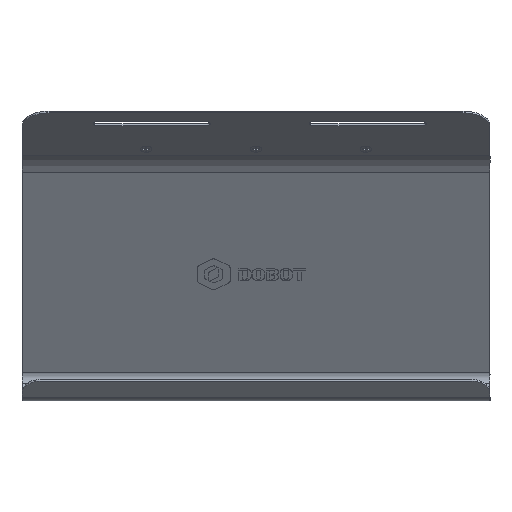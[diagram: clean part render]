
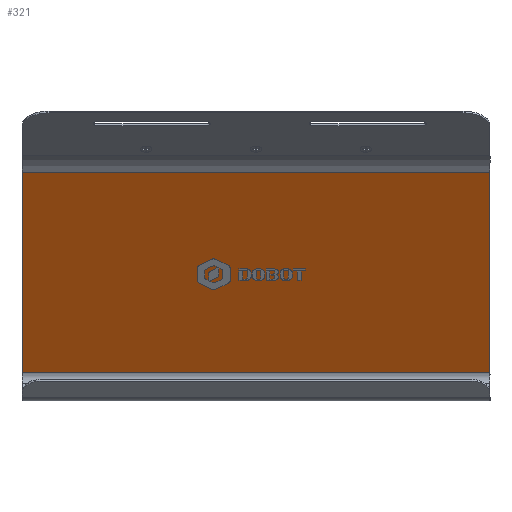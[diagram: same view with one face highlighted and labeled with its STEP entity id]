
A CAD part, top view. The second image highlights one B-rep face of the part: STEP entity #321.
In plain terms, the highlighted free-form (B-spline) face has degree [2, 1] with [3, 2] control points.
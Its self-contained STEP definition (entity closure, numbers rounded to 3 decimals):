
#67=(
BOUNDED_CURVE()
B_SPLINE_CURVE(1,(#3059,#3060),.UNSPECIFIED.,.F.,.F.)
B_SPLINE_CURVE_WITH_KNOTS((2,2),(0.,260.),.UNSPECIFIED.)
CURVE()
GEOMETRIC_REPRESENTATION_ITEM()
RATIONAL_B_SPLINE_CURVE((1.,1.))
REPRESENTATION_ITEM('')
);
#69=(
BOUNDED_CURVE()
B_SPLINE_CURVE(2,(#3064,#3065,#3066),.UNSPECIFIED.,.F.,.F.)
B_SPLINE_CURVE_WITH_KNOTS((3,3),(29.645,161.082),
 .UNSPECIFIED.)
CURVE()
GEOMETRIC_REPRESENTATION_ITEM()
RATIONAL_B_SPLINE_CURVE((1.,1.,1.))
REPRESENTATION_ITEM('')
);
#70=(
BOUNDED_CURVE()
B_SPLINE_CURVE(1,(#3067,#3068),.UNSPECIFIED.,.F.,.F.)
B_SPLINE_CURVE_WITH_KNOTS((2,2),(0.,260.),.UNSPECIFIED.)
CURVE()
GEOMETRIC_REPRESENTATION_ITEM()
RATIONAL_B_SPLINE_CURVE((1.,1.))
REPRESENTATION_ITEM('')
);
#71=(
BOUNDED_CURVE()
B_SPLINE_CURVE(2,(#3069,#3070,#3071),.UNSPECIFIED.,.F.,.F.)
B_SPLINE_CURVE_WITH_KNOTS((3,3),(29.645,161.082),
 .UNSPECIFIED.)
CURVE()
GEOMETRIC_REPRESENTATION_ITEM()
RATIONAL_B_SPLINE_CURVE((1.,1.,1.))
REPRESENTATION_ITEM('')
);
#177=(
BOUNDED_SURFACE()
B_SPLINE_SURFACE(2,1,((#2796,#2797),(#2798,#2799),(#2800,#2801)),
 .UNSPECIFIED.,.F.,.F.,.F.)
B_SPLINE_SURFACE_WITH_KNOTS((3,3),(2,2),(29.645,161.082),
(0.,260.),.UNSPECIFIED.)
GEOMETRIC_REPRESENTATION_ITEM()
RATIONAL_B_SPLINE_SURFACE(((1.,1.),(1.,1.),(1.,1.)))
REPRESENTATION_ITEM('')
SURFACE()
);
#321=ADVANCED_FACE('',(#441),#177,.T.);
#441=FACE_OUTER_BOUND('',#558,.T.);
#558=EDGE_LOOP('',(#824,#825,#826,#827));
#824=ORIENTED_EDGE('',*,*,#1369,.T.);
#825=ORIENTED_EDGE('',*,*,#1370,.T.);
#826=ORIENTED_EDGE('',*,*,#1371,.F.);
#827=ORIENTED_EDGE('',*,*,#1367,.F.);
#1367=EDGE_CURVE('',#1888,#1889,#67,.T.);
#1369=EDGE_CURVE('',#1888,#1890,#69,.T.);
#1370=EDGE_CURVE('',#1890,#1891,#70,.T.);
#1371=EDGE_CURVE('',#1889,#1891,#71,.T.);
#1888=VERTEX_POINT('',#2882);
#1889=VERTEX_POINT('',#2883);
#1890=VERTEX_POINT('',#2884);
#1891=VERTEX_POINT('',#2885);
#2796=CARTESIAN_POINT('',(254.47,434.54,-180.055));
#2797=CARTESIAN_POINT('',(-5.53,434.54,-180.055));
#2798=CARTESIAN_POINT('',(254.47,490.053,-145.022));
#2799=CARTESIAN_POINT('',(-5.53,490.053,-145.022));
#2800=CARTESIAN_POINT('',(254.47,545.566,-109.989));
#2801=CARTESIAN_POINT('',(-5.53,545.566,-109.989));
#2882=CARTESIAN_POINT('',(254.47,434.54,-180.055));
#2883=CARTESIAN_POINT('',(-5.53,434.54,-180.055));
#2884=CARTESIAN_POINT('',(254.47,545.566,-109.989));
#2885=CARTESIAN_POINT('',(-5.53,545.566,-109.989));
#3059=CARTESIAN_POINT('',(254.47,434.54,-180.055));
#3060=CARTESIAN_POINT('',(-5.53,434.54,-180.055));
#3064=CARTESIAN_POINT('',(254.47,434.54,-180.055));
#3065=CARTESIAN_POINT('',(254.47,490.053,-145.022));
#3066=CARTESIAN_POINT('',(254.47,545.566,-109.989));
#3067=CARTESIAN_POINT('',(254.47,545.566,-109.989));
#3068=CARTESIAN_POINT('',(-5.53,545.566,-109.989));
#3069=CARTESIAN_POINT('',(-5.53,434.54,-180.055));
#3070=CARTESIAN_POINT('',(-5.53,490.053,-145.022));
#3071=CARTESIAN_POINT('',(-5.53,545.566,-109.989));
